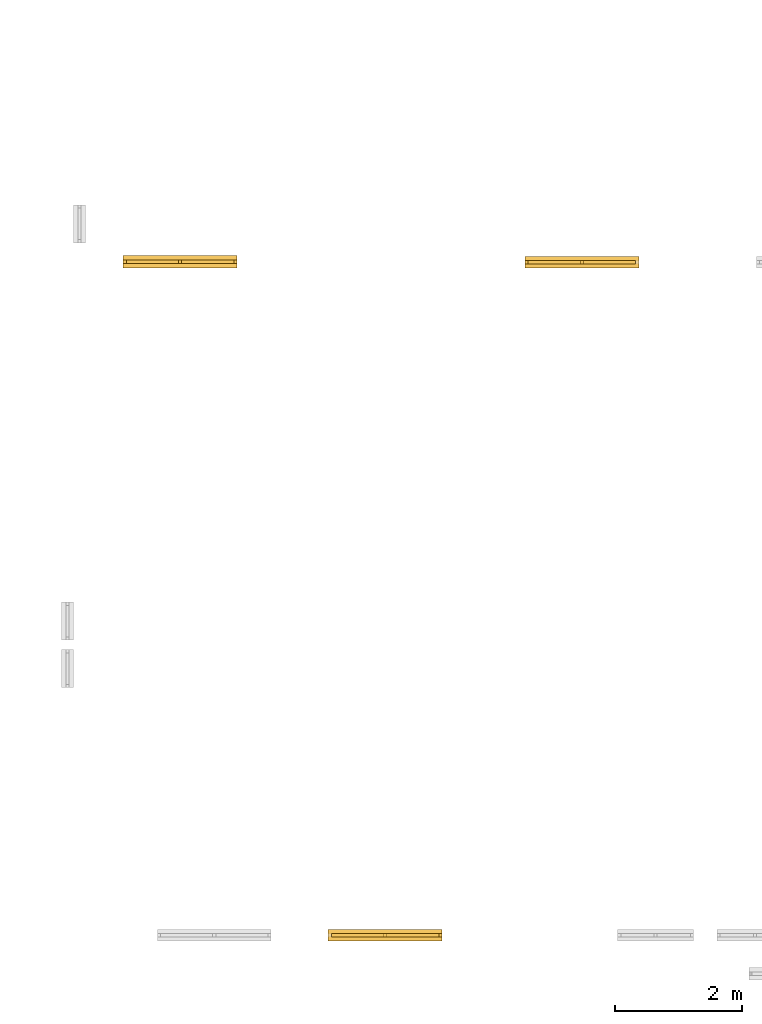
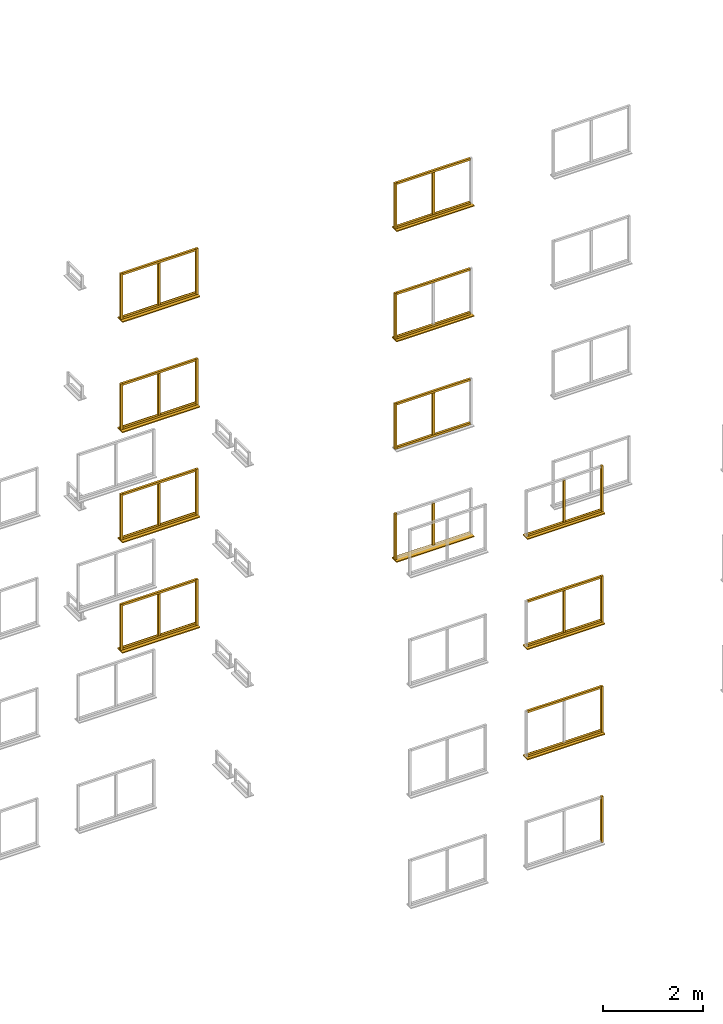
# Not in any storey, part 13 of 22: 54 windows.
"""IFC2X3 model written with IfcOpenShell, lengths in metres."""

from ifc_helpers import new_model, si_unit, frame, origin, place, context, project, faceted_brep, element, save


model = new_model("IFC2X3")

# Units and contexts
model_context = context("Model", 3, precision=1e-06, world=origin())
ifc_project = project(units=[si_unit("LENGTHUNIT", "METRE"), si_unit("PLANEANGLEUNIT", "RADIAN")], contexts=[model_context])

# Windows
placement = place(None, origin())
for number, where, z_axis, x_axis, name in (
    (1, (45.47499999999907, -5.698422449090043, 3.725000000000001), (0.0, 0.0, 1.0), (1.0, 0.0, 0.0), "rightFrame"),
    (2, (46.884598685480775, 4.988577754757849, 1.025), (0.0, 0.0, 1.0), (-1.0, 0.0, 0.0), "rightFrame"),
):
    element("IfcWindow", number, at=place(placement, frame(where, z_axis=z_axis, x_axis=x_axis)), Name=name, context=model_context, shape_type="Brep", body=[
        faceted_brep([(0.0, 0.05, 0.0), (0.05, 0.05, 0.0), (0.05, 0.0, 0.0), (0.0, 0.0, 0.0), (0.05, 0.0, 1.125), (0.05, 0.05, 1.125), (0.0, 0.05, 1.125), (0.0, 0.0, 1.125), (0.0, 0.05, 0.0), (0.0, 0.0, 0.0), (0.0, 0.0, 1.125), (0.0, 0.05, 1.125), (0.05, 0.05, 0.0), (0.0, 0.05, 0.0), (0.0, 0.05, 1.125), (0.05, 0.05, 1.125), (0.05, 0.0, 0.0), (0.05, 0.05, 0.0), (0.05, 0.05, 1.125), (0.05, 0.0, 1.125), (0.0, 0.0, 0.0), (0.05, 0.0, 0.0), (0.05, 0.0, 1.125), (0.0, 0.0, 1.125)], [[[0, 1, 2, 3]], [[4, 5, 6, 7]], [[8, 9, 10, 11]], [[12, 13, 14, 15]], [[16, 17, 18, 19]], [[20, 21, 22, 23]]]),
    ])
window_1_placement = place(placement, frame((48.634598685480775, 5.057077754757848, 1.0), z_axis=(0.0, 0.0, 1.0), x_axis=(-1.0, 0.0, 0.0)))
element("IfcWindow", 3, at=window_1_placement, Name="windowSill", context=model_context, shape_type="Brep", body=[
    faceted_brep([(0.0, 0.186999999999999, 0.0), (1.8, 0.186999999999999, 0.0), (1.8, 0.0, 0.0), (0.0, 0.0, 0.0), (1.8, 0.0, 0.025), (1.8, 0.186999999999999, 0.025), (0.0, 0.186999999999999, 0.025), (0.0, 0.0, 0.025), (0.0, 0.186999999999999, 0.0), (0.0, 0.0, 0.0), (0.0, 0.0, 0.025), (0.0, 0.186999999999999, 0.025), (1.8, 0.186999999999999, 0.0), (0.0, 0.186999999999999, 0.0), (0.0, 0.186999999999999, 0.025), (1.8, 0.186999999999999, 0.025), (1.8, 0.0, 0.0), (1.8, 0.186999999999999, 0.0), (1.8, 0.186999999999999, 0.025), (1.8, 0.0, 0.025), (0.0, 0.0, 0.0), (1.8, 0.0, 0.0), (1.8, 0.0, 0.025), (0.0, 0.0, 0.025)], [[[0, 1, 2, 3]], [[4, 5, 6, 7]], [[8, 9, 10, 11]], [[12, 13, 14, 15]], [[16, 17, 18, 19]], [[20, 21, 22, 23]]]),
])
for number, where, z_axis, x_axis, name in (
    (4, (47.759598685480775, 4.988577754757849, 1.075), (0.0, 0.0, 1.0), (-1.0, 0.0, 0.0), "verticalBar"),
    (5, (47.759598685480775, 4.988577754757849, 3.775), (0.0, 0.0, 1.0), (-1.0, 0.0, 0.0), "verticalBar"),
):
    element("IfcWindow", number, at=place(placement, frame(where, z_axis=z_axis, x_axis=x_axis)), Name=name, context=model_context, shape_type="Brep", body=[
        faceted_brep([(0.0, 0.05, 0.0), (0.05, 0.05, 0.0), (0.05, 0.0, 0.0), (0.0, 0.0, 0.0), (0.05, 0.0, 1.025), (0.05, 0.05, 1.025), (0.0, 0.05, 1.025), (0.0, 0.0, 1.025), (0.0, 0.05, 0.0), (0.0, 0.0, 0.0), (0.0, 0.0, 1.025), (0.0, 0.05, 1.025), (0.05, 0.05, 0.0), (0.0, 0.05, 0.0), (0.0, 0.05, 1.025), (0.05, 0.05, 1.025), (0.05, 0.0, 0.0), (0.05, 0.05, 0.0), (0.05, 0.05, 1.025), (0.05, 0.0, 1.025), (0.0, 0.0, 0.0), (0.05, 0.0, 0.0), (0.05, 0.0, 1.025), (0.0, 0.0, 1.025)], [[[0, 1, 2, 3]], [[4, 5, 6, 7]], [[8, 9, 10, 11]], [[12, 13, 14, 15]], [[16, 17, 18, 19]], [[20, 21, 22, 23]]]),
    ])
window_2_placement = place(placement, frame((48.58459868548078, 4.988577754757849, 4.8), z_axis=(0.0, 0.0, 1.0), x_axis=(-1.0, 0.0, 0.0)))
element("IfcWindow", 6, at=window_2_placement, Name="topFrame", context=model_context, shape_type="Brep", body=[
    faceted_brep([(0.0, 0.05, 0.0), (1.7, 0.05, 0.0), (1.7, 0.0, 0.0), (0.0, 0.0, 0.0), (1.7, 0.0, 0.05), (1.7, 0.05, 0.05), (0.0, 0.05, 0.05), (0.0, 0.0, 0.05), (0.0, 0.05, 0.0), (0.0, 0.0, 0.0), (0.0, 0.0, 0.05), (0.0, 0.05, 0.05), (1.7, 0.05, 0.0), (0.0, 0.05, 0.0), (0.0, 0.05, 0.05), (1.7, 0.05, 0.05), (1.7, 0.0, 0.0), (1.7, 0.05, 0.0), (1.7, 0.05, 0.05), (1.7, 0.0, 0.05), (0.0, 0.0, 0.0), (1.7, 0.0, 0.0), (1.7, 0.0, 0.05), (0.0, 0.0, 0.05)], [[[0, 1, 2, 3]], [[4, 5, 6, 7]], [[8, 9, 10, 11]], [[12, 13, 14, 15]], [[16, 17, 18, 19]], [[20, 21, 22, 23]]]),
])
window_3_placement = place(placement, frame((46.884598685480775, 4.988577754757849, 3.725), z_axis=(0.0, 0.0, 1.0), x_axis=(-1.0, 0.0, 0.0)))
element("IfcWindow", 7, at=window_3_placement, Name="rightFrame", context=model_context, shape_type="Brep", body=[
    faceted_brep([(0.0, 0.05, 0.0), (0.05, 0.05, 0.0), (0.05, 0.0, 0.0), (0.0, 0.0, 0.0), (0.05, 0.0, 1.125), (0.05, 0.05, 1.125), (0.0, 0.05, 1.125), (0.0, 0.0, 1.125), (0.0, 0.05, 0.0), (0.0, 0.0, 0.0), (0.0, 0.0, 1.125), (0.0, 0.05, 1.125), (0.05, 0.05, 0.0), (0.0, 0.05, 0.0), (0.0, 0.05, 1.125), (0.05, 0.05, 1.125), (0.05, 0.0, 0.0), (0.05, 0.05, 0.0), (0.05, 0.05, 1.125), (0.05, 0.0, 1.125), (0.0, 0.0, 0.0), (0.05, 0.0, 0.0), (0.05, 0.0, 1.125), (0.0, 0.0, 1.125)], [[[0, 1, 2, 3]], [[4, 5, 6, 7]], [[8, 9, 10, 11]], [[12, 13, 14, 15]], [[16, 17, 18, 19]], [[20, 21, 22, 23]]]),
])
for number, where, z_axis, x_axis, name in (
    (8, (48.58459868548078, 4.988577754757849, 3.725), (0.0, 0.0, 1.0), (-1.0, 0.0, 0.0), "bottomFrame"),
    (9, (48.58459868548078, 4.98857775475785, 6.425000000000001), (0.0, 0.0, 1.0), (-1.0, 0.0, 0.0), "bottomFrame"),
):
    element("IfcWindow", number, at=place(placement, frame(where, z_axis=z_axis, x_axis=x_axis)), Name=name, context=model_context, shape_type="Brep", body=[
        faceted_brep([(0.0, 0.05, 0.0), (1.7, 0.05, 0.0), (1.7, 0.0, 0.0), (0.0, 0.0, 0.0), (1.7, 0.0, 0.05), (1.7, 0.05, 0.05), (0.0, 0.05, 0.05), (0.0, 0.0, 0.05), (0.0, 0.05, 0.0), (0.0, 0.0, 0.0), (0.0, 0.0, 0.05), (0.0, 0.05, 0.05), (1.7, 0.05, 0.0), (0.0, 0.05, 0.0), (0.0, 0.05, 0.05), (1.7, 0.05, 0.05), (1.7, 0.0, 0.0), (1.7, 0.05, 0.0), (1.7, 0.05, 0.05), (1.7, 0.0, 0.05), (0.0, 0.0, 0.0), (1.7, 0.0, 0.0), (1.7, 0.0, 0.05), (0.0, 0.0, 0.05)], [[[0, 1, 2, 3]], [[4, 5, 6, 7]], [[8, 9, 10, 11]], [[12, 13, 14, 15]], [[16, 17, 18, 19]], [[20, 21, 22, 23]]]),
    ])
window_4_placement = place(placement, frame((46.884598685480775, 4.98857775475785, 6.425000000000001), z_axis=(0.0, 0.0, 1.0), x_axis=(-1.0, 0.0, 0.0)))
element("IfcWindow", 10, at=window_4_placement, Name="rightFrame", context=model_context, shape_type="Brep", body=[
    faceted_brep([(0.0, 0.05, 0.0), (0.05, 0.05, 0.0), (0.05, 0.0, 0.0), (0.0, 0.0, 0.0), (0.05, 0.0, 1.125), (0.05, 0.05, 1.125), (0.0, 0.05, 1.125), (0.0, 0.0, 1.125), (0.0, 0.05, 0.0), (0.0, 0.0, 0.0), (0.0, 0.0, 1.125), (0.0, 0.05, 1.125), (0.05, 0.05, 0.0), (0.0, 0.05, 0.0), (0.0, 0.05, 1.125), (0.05, 0.05, 1.125), (0.05, 0.0, 0.0), (0.05, 0.05, 0.0), (0.05, 0.05, 1.125), (0.05, 0.0, 1.125), (0.0, 0.0, 0.0), (0.05, 0.0, 0.0), (0.05, 0.0, 1.125), (0.0, 0.0, 1.125)], [[[0, 1, 2, 3]], [[4, 5, 6, 7]], [[8, 9, 10, 11]], [[12, 13, 14, 15]], [[16, 17, 18, 19]], [[20, 21, 22, 23]]]),
])
window_5_placement = place(placement, frame((48.58459868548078, 4.98857775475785, 7.5), z_axis=(0.0, 0.0, 1.0), x_axis=(-1.0, 0.0, 0.0)))
element("IfcWindow", 11, at=window_5_placement, Name="topFrame", context=model_context, shape_type="Brep", body=[
    faceted_brep([(0.0, 0.05, 0.0), (1.7, 0.05, 0.0), (1.7, 0.0, 0.0), (0.0, 0.0, 0.0), (1.7, 0.0, 0.05), (1.7, 0.05, 0.05), (0.0, 0.05, 0.05), (0.0, 0.0, 0.05), (0.0, 0.05, 0.0), (0.0, 0.0, 0.0), (0.0, 0.0, 0.05), (0.0, 0.05, 0.05), (1.7, 0.05, 0.0), (0.0, 0.05, 0.0), (0.0, 0.05, 0.05), (1.7, 0.05, 0.05), (1.7, 0.0, 0.0), (1.7, 0.05, 0.0), (1.7, 0.05, 0.05), (1.7, 0.0, 0.05), (0.0, 0.0, 0.0), (1.7, 0.0, 0.0), (1.7, 0.0, 0.05), (0.0, 0.0, 0.05)], [[[0, 1, 2, 3]], [[4, 5, 6, 7]], [[8, 9, 10, 11]], [[12, 13, 14, 15]], [[16, 17, 18, 19]], [[20, 21, 22, 23]]]),
])
window_6_placement = place(placement, frame((48.634598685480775, 5.05707775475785, 6.4), z_axis=(0.0, 0.0, 1.0), x_axis=(-1.0, 0.0, 0.0)))
element("IfcWindow", 12, at=window_6_placement, Name="windowSill", context=model_context, shape_type="Brep", body=[
    faceted_brep([(0.0, 0.186999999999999, 0.0), (1.8, 0.186999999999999, 0.0), (1.8, 0.0, 0.0), (0.0, 0.0, 0.0), (1.8, 0.0, 0.025), (1.8, 0.186999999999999, 0.025), (0.0, 0.186999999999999, 0.025), (0.0, 0.0, 0.025), (0.0, 0.186999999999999, 0.0), (0.0, 0.0, 0.0), (0.0, 0.0, 0.025), (0.0, 0.186999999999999, 0.025), (1.8, 0.186999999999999, 0.0), (0.0, 0.186999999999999, 0.0), (0.0, 0.186999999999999, 0.025), (1.8, 0.186999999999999, 0.025), (1.8, 0.0, 0.0), (1.8, 0.186999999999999, 0.0), (1.8, 0.186999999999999, 0.025), (1.8, 0.0, 0.025), (0.0, 0.0, 0.0), (1.8, 0.0, 0.0), (1.8, 0.0, 0.025), (0.0, 0.0, 0.025)], [[[0, 1, 2, 3]], [[4, 5, 6, 7]], [[8, 9, 10, 11]], [[12, 13, 14, 15]], [[16, 17, 18, 19]], [[20, 21, 22, 23]]]),
])
window_7_placement = place(placement, frame((47.759598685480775, 4.988577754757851, 9.175), z_axis=(0.0, 0.0, 1.0), x_axis=(-1.0, 0.0, 0.0)))
element("IfcWindow", 13, at=window_7_placement, Name="verticalBar", context=model_context, shape_type="Brep", body=[
    faceted_brep([(0.0, 0.05, 0.0), (0.05, 0.05, 0.0), (0.05, 0.0, 0.0), (0.0, 0.0, 0.0), (0.05, 0.0, 1.025), (0.05, 0.05, 1.025), (0.0, 0.05, 1.025), (0.0, 0.0, 1.025), (0.0, 0.05, 0.0), (0.0, 0.0, 0.0), (0.0, 0.0, 1.025), (0.0, 0.05, 1.025), (0.05, 0.05, 0.0), (0.0, 0.05, 0.0), (0.0, 0.05, 1.025), (0.05, 0.05, 1.025), (0.05, 0.0, 0.0), (0.05, 0.05, 0.0), (0.05, 0.05, 1.025), (0.05, 0.0, 1.025), (0.0, 0.0, 0.0), (0.05, 0.0, 0.0), (0.05, 0.0, 1.025), (0.0, 0.0, 1.025)], [[[0, 1, 2, 3]], [[4, 5, 6, 7]], [[8, 9, 10, 11]], [[12, 13, 14, 15]], [[16, 17, 18, 19]], [[20, 21, 22, 23]]]),
])
window_8_placement = place(placement, frame((48.634598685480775, 5.057077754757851, 9.100000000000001), z_axis=(0.0, 0.0, 1.0), x_axis=(-1.0, 0.0, 0.0)))
element("IfcWindow", 14, at=window_8_placement, Name="windowSill", context=model_context, shape_type="Brep", body=[
    faceted_brep([(0.0, 0.186999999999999, 0.0), (1.8, 0.186999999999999, 0.0), (1.8, 0.0, 0.0), (0.0, 0.0, 0.0), (1.8, 0.0, 0.025), (1.8, 0.186999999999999, 0.025), (0.0, 0.186999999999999, 0.025), (0.0, 0.0, 0.025), (0.0, 0.186999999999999, 0.0), (0.0, 0.0, 0.0), (0.0, 0.0, 0.025), (0.0, 0.186999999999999, 0.025), (1.8, 0.186999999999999, 0.0), (0.0, 0.186999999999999, 0.0), (0.0, 0.186999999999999, 0.025), (1.8, 0.186999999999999, 0.025), (1.8, 0.0, 0.0), (1.8, 0.186999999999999, 0.0), (1.8, 0.186999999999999, 0.025), (1.8, 0.0, 0.025), (0.0, 0.0, 0.0), (1.8, 0.0, 0.0), (1.8, 0.0, 0.025), (0.0, 0.0, 0.025)], [[[0, 1, 2, 3]], [[4, 5, 6, 7]], [[8, 9, 10, 11]], [[12, 13, 14, 15]], [[16, 17, 18, 19]], [[20, 21, 22, 23]]]),
])
for number, where, z_axis, x_axis, name in (
    (15, (48.58459868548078, 4.988577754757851, 10.200000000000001), (0.0, 0.0, 1.0), (-1.0, 0.0, 0.0), "topFrame"),
    (16, (48.58459868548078, 4.988577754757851, 9.125000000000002), (0.0, 0.0, 1.0), (-1.0, 0.0, 0.0), "bottomFrame"),
    (17, (42.23500000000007, 4.995077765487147, 2.099999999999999), (0.0, 0.0, 1.0), (-1.0, 0.0, 0.0), "topFrame"),
):
    element("IfcWindow", number, at=place(placement, frame(where, z_axis=z_axis, x_axis=x_axis)), Name=name, context=model_context, shape_type="Brep", body=[
        faceted_brep([(0.0, 0.05, 0.0), (1.7, 0.05, 0.0), (1.7, 0.0, 0.0), (0.0, 0.0, 0.0), (1.7, 0.0, 0.05), (1.7, 0.05, 0.05), (0.0, 0.05, 0.05), (0.0, 0.0, 0.05), (0.0, 0.05, 0.0), (0.0, 0.0, 0.0), (0.0, 0.0, 0.05), (0.0, 0.05, 0.05), (1.7, 0.05, 0.0), (0.0, 0.05, 0.0), (0.0, 0.05, 0.05), (1.7, 0.05, 0.05), (1.7, 0.0, 0.0), (1.7, 0.05, 0.0), (1.7, 0.05, 0.05), (1.7, 0.0, 0.05), (0.0, 0.0, 0.0), (1.7, 0.0, 0.0), (1.7, 0.0, 0.05), (0.0, 0.0, 0.05)], [[[0, 1, 2, 3]], [[4, 5, 6, 7]], [[8, 9, 10, 11]], [[12, 13, 14, 15]], [[16, 17, 18, 19]], [[20, 21, 22, 23]]]),
    ])
window_9_placement = place(placement, frame((40.53500000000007, 4.995077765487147, 1.024999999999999), z_axis=(0.0, 0.0, 1.0), x_axis=(-1.0, 0.0, 0.0)))
element("IfcWindow", 18, at=window_9_placement, Name="rightFrame", context=model_context, shape_type="Brep", body=[
    faceted_brep([(0.0, 0.05, 0.0), (0.05, 0.05, 0.0), (0.05, 0.0, 0.0), (0.0, 0.0, 0.0), (0.05, 0.0, 1.125), (0.05, 0.05, 1.125), (0.0, 0.05, 1.125), (0.0, 0.0, 1.125), (0.0, 0.05, 0.0), (0.0, 0.0, 0.0), (0.0, 0.0, 1.125), (0.0, 0.05, 1.125), (0.05, 0.05, 0.0), (0.0, 0.05, 0.0), (0.0, 0.05, 1.125), (0.05, 0.05, 1.125), (0.05, 0.0, 0.0), (0.05, 0.05, 0.0), (0.05, 0.05, 1.125), (0.05, 0.0, 1.125), (0.0, 0.0, 0.0), (0.05, 0.0, 0.0), (0.05, 0.0, 1.125), (0.0, 0.0, 1.125)], [[[0, 1, 2, 3]], [[4, 5, 6, 7]], [[8, 9, 10, 11]], [[12, 13, 14, 15]], [[16, 17, 18, 19]], [[20, 21, 22, 23]]]),
])
window_10_placement = place(placement, frame((42.28500000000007, 5.070077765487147, 0.999999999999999), z_axis=(0.0, 0.0, 1.0), x_axis=(-1.0, 0.0, 0.0)))
element("IfcWindow", 19, at=window_10_placement, Name="windowSill", context=model_context, shape_type="Brep", body=[
    faceted_brep([(0.0, 0.2, 0.0), (1.8, 0.2, 0.0), (1.8, 0.0, 0.0), (0.0, 0.0, 0.0), (1.8, 0.0, 0.025), (1.8, 0.2, 0.025), (0.0, 0.2, 0.025), (0.0, 0.0, 0.025), (0.0, 0.2, 0.0), (0.0, 0.0, 0.0), (0.0, 0.0, 0.025), (0.0, 0.2, 0.025), (1.8, 0.2, 0.0), (0.0, 0.2, 0.0), (0.0, 0.2, 0.025), (1.8, 0.2, 0.025), (1.8, 0.0, 0.0), (1.8, 0.2, 0.0), (1.8, 0.2, 0.025), (1.8, 0.0, 0.025), (0.0, 0.0, 0.0), (1.8, 0.0, 0.0), (1.8, 0.0, 0.025), (0.0, 0.0, 0.025)], [[[0, 1, 2, 3]], [[4, 5, 6, 7]], [[8, 9, 10, 11]], [[12, 13, 14, 15]], [[16, 17, 18, 19]], [[20, 21, 22, 23]]]),
])
for number, where, z_axis, x_axis, name in (
    (20, (41.41000000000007, 4.995077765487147, 1.074999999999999), (0.0, 0.0, 1.0), (-1.0, 0.0, 0.0), "verticalBar"),
    (21, (41.41000000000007, 4.995077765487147, 3.775), (0.0, 0.0, 1.0), (-1.0, 0.0, 0.0), "verticalBar"),
):
    element("IfcWindow", number, at=place(placement, frame(where, z_axis=z_axis, x_axis=x_axis)), Name=name, context=model_context, shape_type="Brep", body=[
        faceted_brep([(0.0, 0.05, 0.0), (0.05, 0.05, 0.0), (0.05, 0.0, 0.0), (0.0, 0.0, 0.0), (0.05, 0.0, 1.025), (0.05, 0.05, 1.025), (0.0, 0.05, 1.025), (0.0, 0.0, 1.025), (0.0, 0.05, 0.0), (0.0, 0.0, 0.0), (0.0, 0.0, 1.025), (0.0, 0.05, 1.025), (0.05, 0.05, 0.0), (0.0, 0.05, 0.0), (0.0, 0.05, 1.025), (0.05, 0.05, 1.025), (0.05, 0.0, 0.0), (0.05, 0.05, 0.0), (0.05, 0.05, 1.025), (0.05, 0.0, 1.025), (0.0, 0.0, 0.0), (0.05, 0.0, 0.0), (0.05, 0.0, 1.025), (0.0, 0.0, 1.025)], [[[0, 1, 2, 3]], [[4, 5, 6, 7]], [[8, 9, 10, 11]], [[12, 13, 14, 15]], [[16, 17, 18, 19]], [[20, 21, 22, 23]]]),
    ])
window_11_placement = place(placement, frame((45.47499999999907, -5.698422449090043, 1.025), z_axis=(0.0, 0.0, 1.0), x_axis=(1.0, 0.0, 0.0)))
element("IfcWindow", 22, at=window_11_placement, Name="rightFrame", context=model_context, shape_type="Brep", body=[
    faceted_brep([(0.0, 0.05, 0.0), (0.05, 0.05, 0.0), (0.05, 0.0, 0.0), (0.0, 0.0, 0.0), (0.05, 0.0, 1.125), (0.05, 0.05, 1.125), (0.0, 0.05, 1.125), (0.0, 0.0, 1.125), (0.0, 0.05, 0.0), (0.0, 0.0, 0.0), (0.0, 0.0, 1.125), (0.0, 0.05, 1.125), (0.05, 0.05, 0.0), (0.0, 0.05, 0.0), (0.0, 0.05, 1.125), (0.05, 0.05, 1.125), (0.05, 0.0, 0.0), (0.05, 0.05, 0.0), (0.05, 0.05, 1.125), (0.05, 0.0, 1.125), (0.0, 0.0, 0.0), (0.05, 0.0, 0.0), (0.05, 0.0, 1.125), (0.0, 0.0, 1.125)], [[[0, 1, 2, 3]], [[4, 5, 6, 7]], [[8, 9, 10, 11]], [[12, 13, 14, 15]], [[16, 17, 18, 19]], [[20, 21, 22, 23]]]),
])
window_12_placement = place(placement, frame((42.28500000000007, 5.070077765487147, 3.699999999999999), z_axis=(0.0, 0.0, 1.0), x_axis=(-1.0, 0.0, 0.0)))
element("IfcWindow", 23, at=window_12_placement, Name="windowSill", context=model_context, shape_type="Brep", body=[
    faceted_brep([(0.0, 0.2, 0.0), (1.8, 0.2, 0.0), (1.8, 0.0, 0.0), (0.0, 0.0, 0.0), (1.8, 0.0, 0.025), (1.8, 0.2, 0.025), (0.0, 0.2, 0.025), (0.0, 0.0, 0.025), (0.0, 0.2, 0.0), (0.0, 0.0, 0.0), (0.0, 0.0, 0.025), (0.0, 0.2, 0.025), (1.8, 0.2, 0.0), (0.0, 0.2, 0.0), (0.0, 0.2, 0.025), (1.8, 0.2, 0.025), (1.8, 0.0, 0.0), (1.8, 0.2, 0.0), (1.8, 0.2, 0.025), (1.8, 0.0, 0.025), (0.0, 0.0, 0.0), (1.8, 0.0, 0.0), (1.8, 0.0, 0.025), (0.0, 0.0, 0.025)], [[[0, 1, 2, 3]], [[4, 5, 6, 7]], [[8, 9, 10, 11]], [[12, 13, 14, 15]], [[16, 17, 18, 19]], [[20, 21, 22, 23]]]),
])
for number, where, z_axis, x_axis, name in (
    (24, (40.53500000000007, 4.995077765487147, 3.724999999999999), (0.0, 0.0, 1.0), (-1.0, 0.0, 0.0), "rightFrame"),
    (25, (42.28500000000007, 4.995077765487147, 3.724999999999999), (0.0, 0.0, 1.0), (-1.0, 0.0, 0.0), "leftFrame"),
):
    element("IfcWindow", number, at=place(placement, frame(where, z_axis=z_axis, x_axis=x_axis)), Name=name, context=model_context, shape_type="Brep", body=[
        faceted_brep([(0.0, 0.05, 0.0), (0.05, 0.05, 0.0), (0.05, 0.0, 0.0), (0.0, 0.0, 0.0), (0.05, 0.0, 1.125), (0.05, 0.05, 1.125), (0.0, 0.05, 1.125), (0.0, 0.0, 1.125), (0.0, 0.05, 0.0), (0.0, 0.0, 0.0), (0.0, 0.0, 1.125), (0.0, 0.05, 1.125), (0.05, 0.05, 0.0), (0.0, 0.05, 0.0), (0.0, 0.05, 1.125), (0.05, 0.05, 1.125), (0.05, 0.0, 0.0), (0.05, 0.05, 0.0), (0.05, 0.05, 1.125), (0.05, 0.0, 1.125), (0.0, 0.0, 0.0), (0.05, 0.0, 0.0), (0.05, 0.0, 1.125), (0.0, 0.0, 1.125)], [[[0, 1, 2, 3]], [[4, 5, 6, 7]], [[8, 9, 10, 11]], [[12, 13, 14, 15]], [[16, 17, 18, 19]], [[20, 21, 22, 23]]]),
    ])
for number, where, z_axis, x_axis, name in (
    (26, (42.23500000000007, 4.995077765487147, 4.799999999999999), (0.0, 0.0, 1.0), (-1.0, 0.0, 0.0), "topFrame"),
    (27, (42.23500000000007, 4.995077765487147, 3.724999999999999), (0.0, 0.0, 1.0), (-1.0, 0.0, 0.0), "bottomFrame"),
    (28, (42.23500000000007, 4.995077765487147, 6.424999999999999), (0.0, 0.0, 1.0), (-1.0, 0.0, 0.0), "bottomFrame"),
    (29, (42.23500000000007, 4.995077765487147, 7.499999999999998), (0.0, 0.0, 1.0), (-1.0, 0.0, 0.0), "topFrame"),
):
    element("IfcWindow", number, at=place(placement, frame(where, z_axis=z_axis, x_axis=x_axis)), Name=name, context=model_context, shape_type="Brep", body=[
        faceted_brep([(0.0, 0.05, 0.0), (1.7, 0.05, 0.0), (1.7, 0.0, 0.0), (0.0, 0.0, 0.0), (1.7, 0.0, 0.05), (1.7, 0.05, 0.05), (0.0, 0.05, 0.05), (0.0, 0.0, 0.05), (0.0, 0.05, 0.0), (0.0, 0.0, 0.0), (0.0, 0.0, 0.05), (0.0, 0.05, 0.05), (1.7, 0.05, 0.0), (0.0, 0.05, 0.0), (0.0, 0.05, 0.05), (1.7, 0.05, 0.05), (1.7, 0.0, 0.0), (1.7, 0.05, 0.0), (1.7, 0.05, 0.05), (1.7, 0.0, 0.05), (0.0, 0.0, 0.0), (1.7, 0.0, 0.0), (1.7, 0.0, 0.05), (0.0, 0.0, 0.05)], [[[0, 1, 2, 3]], [[4, 5, 6, 7]], [[8, 9, 10, 11]], [[12, 13, 14, 15]], [[16, 17, 18, 19]], [[20, 21, 22, 23]]]),
    ])
for number, where, z_axis, x_axis, name in (
    (30, (42.28500000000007, 4.995077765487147, 6.424999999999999), (0.0, 0.0, 1.0), (-1.0, 0.0, 0.0), "leftFrame"),
    (31, (40.53500000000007, 4.995077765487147, 6.424999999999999), (0.0, 0.0, 1.0), (-1.0, 0.0, 0.0), "rightFrame"),
):
    element("IfcWindow", number, at=place(placement, frame(where, z_axis=z_axis, x_axis=x_axis)), Name=name, context=model_context, shape_type="Brep", body=[
        faceted_brep([(0.0, 0.05, 0.0), (0.05, 0.05, 0.0), (0.05, 0.0, 0.0), (0.0, 0.0, 0.0), (0.05, 0.0, 1.125), (0.05, 0.05, 1.125), (0.0, 0.05, 1.125), (0.0, 0.0, 1.125), (0.0, 0.05, 0.0), (0.0, 0.0, 0.0), (0.0, 0.0, 1.125), (0.0, 0.05, 1.125), (0.05, 0.05, 0.0), (0.0, 0.05, 0.0), (0.0, 0.05, 1.125), (0.05, 0.05, 1.125), (0.05, 0.0, 0.0), (0.05, 0.05, 0.0), (0.05, 0.05, 1.125), (0.05, 0.0, 1.125), (0.0, 0.0, 0.0), (0.05, 0.0, 0.0), (0.05, 0.0, 1.125), (0.0, 0.0, 1.125)], [[[0, 1, 2, 3]], [[4, 5, 6, 7]], [[8, 9, 10, 11]], [[12, 13, 14, 15]], [[16, 17, 18, 19]], [[20, 21, 22, 23]]]),
    ])
window_13_placement = place(placement, frame((41.41000000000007, 4.995077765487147, 6.474999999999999), z_axis=(0.0, 0.0, 1.0), x_axis=(-1.0, 0.0, 0.0)))
element("IfcWindow", 32, at=window_13_placement, Name="verticalBar", context=model_context, shape_type="Brep", body=[
    faceted_brep([(0.0, 0.05, 0.0), (0.05, 0.05, 0.0), (0.05, 0.0, 0.0), (0.0, 0.0, 0.0), (0.05, 0.0, 1.025), (0.05, 0.05, 1.025), (0.0, 0.05, 1.025), (0.0, 0.0, 1.025), (0.0, 0.05, 0.0), (0.0, 0.0, 0.0), (0.0, 0.0, 1.025), (0.0, 0.05, 1.025), (0.05, 0.05, 0.0), (0.0, 0.05, 0.0), (0.0, 0.05, 1.025), (0.05, 0.05, 1.025), (0.05, 0.0, 0.0), (0.05, 0.05, 0.0), (0.05, 0.05, 1.025), (0.05, 0.0, 1.025), (0.0, 0.0, 0.0), (0.05, 0.0, 0.0), (0.05, 0.0, 1.025), (0.0, 0.0, 1.025)], [[[0, 1, 2, 3]], [[4, 5, 6, 7]], [[8, 9, 10, 11]], [[12, 13, 14, 15]], [[16, 17, 18, 19]], [[20, 21, 22, 23]]]),
])
for number, where, z_axis, x_axis, name in (
    (33, (42.28500000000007, 5.070077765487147, 6.399999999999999), (0.0, 0.0, 1.0), (-1.0, 0.0, 0.0), "windowSill"),
    (34, (42.28500000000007, 5.070077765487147, 9.099999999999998), (0.0, 0.0, 1.0), (-1.0, 0.0, 0.0), "windowSill"),
):
    element("IfcWindow", number, at=place(placement, frame(where, z_axis=z_axis, x_axis=x_axis)), Name=name, context=model_context, shape_type="Brep", body=[
        faceted_brep([(0.0, 0.2, 0.0), (1.8, 0.2, 0.0), (1.8, 0.0, 0.0), (0.0, 0.0, 0.0), (1.8, 0.0, 0.025), (1.8, 0.2, 0.025), (0.0, 0.2, 0.025), (0.0, 0.0, 0.025), (0.0, 0.2, 0.0), (0.0, 0.0, 0.0), (0.0, 0.0, 0.025), (0.0, 0.2, 0.025), (1.8, 0.2, 0.0), (0.0, 0.2, 0.0), (0.0, 0.2, 0.025), (1.8, 0.2, 0.025), (1.8, 0.0, 0.0), (1.8, 0.2, 0.0), (1.8, 0.2, 0.025), (1.8, 0.0, 0.025), (0.0, 0.0, 0.0), (1.8, 0.0, 0.0), (1.8, 0.0, 0.025), (0.0, 0.0, 0.025)], [[[0, 1, 2, 3]], [[4, 5, 6, 7]], [[8, 9, 10, 11]], [[12, 13, 14, 15]], [[16, 17, 18, 19]], [[20, 21, 22, 23]]]),
    ])
window_14_placement = place(placement, frame((41.41000000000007, 4.995077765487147, 9.174999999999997), z_axis=(0.0, 0.0, 1.0), x_axis=(-1.0, 0.0, 0.0)))
element("IfcWindow", 35, at=window_14_placement, Name="verticalBar", context=model_context, shape_type="Brep", body=[
    faceted_brep([(0.0, 0.05, 0.0), (0.05, 0.05, 0.0), (0.05, 0.0, 0.0), (0.0, 0.0, 0.0), (0.05, 0.0, 1.025), (0.05, 0.05, 1.025), (0.0, 0.05, 1.025), (0.0, 0.0, 1.025), (0.0, 0.05, 0.0), (0.0, 0.0, 0.0), (0.0, 0.0, 1.025), (0.0, 0.05, 1.025), (0.05, 0.05, 0.0), (0.0, 0.05, 0.0), (0.0, 0.05, 1.025), (0.05, 0.05, 1.025), (0.05, 0.0, 0.0), (0.05, 0.05, 0.0), (0.05, 0.05, 1.025), (0.05, 0.0, 1.025), (0.0, 0.0, 0.0), (0.05, 0.0, 0.0), (0.05, 0.0, 1.025), (0.0, 0.0, 1.025)], [[[0, 1, 2, 3]], [[4, 5, 6, 7]], [[8, 9, 10, 11]], [[12, 13, 14, 15]], [[16, 17, 18, 19]], [[20, 21, 22, 23]]]),
])
for number, where, z_axis, x_axis, name in (
    (36, (40.53500000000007, 4.995077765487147, 9.124999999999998), (0.0, 0.0, 1.0), (-1.0, 0.0, 0.0), "rightFrame"),
    (37, (42.28500000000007, 4.995077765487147, 9.124999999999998), (0.0, 0.0, 1.0), (-1.0, 0.0, 0.0), "leftFrame"),
):
    element("IfcWindow", number, at=place(placement, frame(where, z_axis=z_axis, x_axis=x_axis)), Name=name, context=model_context, shape_type="Brep", body=[
        faceted_brep([(0.0, 0.05, 0.0), (0.05, 0.05, 0.0), (0.05, 0.0, 0.0), (0.0, 0.0, 0.0), (0.05, 0.0, 1.125), (0.05, 0.05, 1.125), (0.0, 0.05, 1.125), (0.0, 0.0, 1.125), (0.0, 0.05, 0.0), (0.0, 0.0, 0.0), (0.0, 0.0, 1.125), (0.0, 0.05, 1.125), (0.05, 0.05, 0.0), (0.0, 0.05, 0.0), (0.0, 0.05, 1.125), (0.05, 0.05, 1.125), (0.05, 0.0, 0.0), (0.05, 0.05, 0.0), (0.05, 0.05, 1.125), (0.05, 0.0, 1.125), (0.0, 0.0, 0.0), (0.05, 0.0, 0.0), (0.05, 0.0, 1.125), (0.0, 0.0, 1.125)], [[[0, 1, 2, 3]], [[4, 5, 6, 7]], [[8, 9, 10, 11]], [[12, 13, 14, 15]], [[16, 17, 18, 19]], [[20, 21, 22, 23]]]),
    ])
for number, where, z_axis, x_axis, name in (
    (38, (42.23500000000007, 4.995077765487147, 10.199999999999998), (0.0, 0.0, 1.0), (-1.0, 0.0, 0.0), "topFrame"),
    (39, (42.23500000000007, 4.995077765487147, 9.124999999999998), (0.0, 0.0, 1.0), (-1.0, 0.0, 0.0), "bottomFrame"),
):
    element("IfcWindow", number, at=place(placement, frame(where, z_axis=z_axis, x_axis=x_axis)), Name=name, context=model_context, shape_type="Brep", body=[
        faceted_brep([(0.0, 0.05, 0.0), (1.7, 0.05, 0.0), (1.7, 0.0, 0.0), (0.0, 0.0, 0.0), (1.7, 0.0, 0.05), (1.7, 0.05, 0.05), (0.0, 0.05, 0.05), (0.0, 0.0, 0.05), (0.0, 0.05, 0.0), (0.0, 0.0, 0.0), (0.0, 0.0, 0.05), (0.0, 0.05, 0.05), (1.7, 0.05, 0.0), (0.0, 0.05, 0.0), (0.0, 0.05, 0.05), (1.7, 0.05, 0.05), (1.7, 0.0, 0.0), (1.7, 0.05, 0.0), (1.7, 0.05, 0.05), (1.7, 0.0, 0.05), (0.0, 0.0, 0.0), (1.7, 0.0, 0.0), (1.7, 0.0, 0.05), (0.0, 0.0, 0.05)], [[[0, 1, 2, 3]], [[4, 5, 6, 7]], [[8, 9, 10, 11]], [[12, 13, 14, 15]], [[16, 17, 18, 19]], [[20, 21, 22, 23]]]),
    ])
for number, where, z_axis, x_axis, name in (
    (40, (46.884598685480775, 4.988577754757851, 9.125000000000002), (0.0, 0.0, 1.0), (-1.0, 0.0, 0.0), "rightFrame"),
    (41, (45.47499999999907, -5.698422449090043, 9.125000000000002), (0.0, 0.0, 1.0), (1.0, 0.0, 0.0), "rightFrame"),
):
    element("IfcWindow", number, at=place(placement, frame(where, z_axis=z_axis, x_axis=x_axis)), Name=name, context=model_context, shape_type="Brep", body=[
        faceted_brep([(0.0, 0.05, 0.0), (0.05, 0.05, 0.0), (0.05, 0.0, 0.0), (0.0, 0.0, 0.0), (0.05, 0.0, 1.125), (0.05, 0.05, 1.125), (0.0, 0.05, 1.125), (0.0, 0.0, 1.125), (0.0, 0.05, 0.0), (0.0, 0.0, 0.0), (0.0, 0.0, 1.125), (0.0, 0.05, 1.125), (0.05, 0.05, 0.0), (0.0, 0.05, 0.0), (0.0, 0.05, 1.125), (0.05, 0.05, 1.125), (0.05, 0.0, 0.0), (0.05, 0.05, 0.0), (0.05, 0.05, 1.125), (0.05, 0.0, 1.125), (0.0, 0.0, 0.0), (0.05, 0.0, 0.0), (0.05, 0.0, 1.125), (0.0, 0.0, 1.125)], [[[0, 1, 2, 3]], [[4, 5, 6, 7]], [[8, 9, 10, 11]], [[12, 13, 14, 15]], [[16, 17, 18, 19]], [[20, 21, 22, 23]]]),
    ])
window_15_placement = place(placement, frame((43.72499999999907, -5.766922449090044, 9.100000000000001), z_axis=(0.0, 0.0, 1.0), x_axis=(1.0, 0.0, 0.0)))
element("IfcWindow", 42, at=window_15_placement, Name="windowSill", context=model_context, shape_type="Brep", body=[
    faceted_brep([(0.0, 0.187, 0.0), (1.8, 0.187, 0.0), (1.8, 0.0, 0.0), (0.0, 0.0, 0.0), (1.8, 0.0, 0.025), (1.8, 0.187, 0.025), (0.0, 0.187, 0.025), (0.0, 0.0, 0.025), (0.0, 0.187, 0.0), (0.0, 0.0, 0.0), (0.0, 0.0, 0.025), (0.0, 0.187, 0.025), (1.8, 0.187, 0.0), (0.0, 0.187, 0.0), (0.0, 0.187, 0.025), (1.8, 0.187, 0.025), (1.8, 0.0, 0.0), (1.8, 0.187, 0.0), (1.8, 0.187, 0.025), (1.8, 0.0, 0.025), (0.0, 0.0, 0.0), (1.8, 0.0, 0.0), (1.8, 0.0, 0.025), (0.0, 0.0, 0.025)], [[[0, 1, 2, 3]], [[4, 5, 6, 7]], [[8, 9, 10, 11]], [[12, 13, 14, 15]], [[16, 17, 18, 19]], [[20, 21, 22, 23]]]),
])
window_16_placement = place(placement, frame((44.59999999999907, -5.698422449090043, 9.175), z_axis=(0.0, 0.0, 1.0), x_axis=(1.0, 0.0, 0.0)))
element("IfcWindow", 43, at=window_16_placement, Name="verticalBar", context=model_context, shape_type="Brep", body=[
    faceted_brep([(0.0, 0.05, 0.0), (0.05, 0.05, 0.0), (0.05, 0.0, 0.0), (0.0, 0.0, 0.0), (0.05, 0.0, 1.025), (0.05, 0.05, 1.025), (0.0, 0.05, 1.025), (0.0, 0.0, 1.025), (0.0, 0.05, 0.0), (0.0, 0.0, 0.0), (0.0, 0.0, 1.025), (0.0, 0.05, 1.025), (0.05, 0.05, 0.0), (0.0, 0.05, 0.0), (0.0, 0.05, 1.025), (0.05, 0.05, 1.025), (0.05, 0.0, 0.0), (0.05, 0.05, 0.0), (0.05, 0.05, 1.025), (0.05, 0.0, 1.025), (0.0, 0.0, 0.0), (0.05, 0.0, 0.0), (0.05, 0.0, 1.025), (0.0, 0.0, 1.025)], [[[0, 1, 2, 3]], [[4, 5, 6, 7]], [[8, 9, 10, 11]], [[12, 13, 14, 15]], [[16, 17, 18, 19]], [[20, 21, 22, 23]]]),
])
for number, where, z_axis, x_axis, name in (
    (44, (42.23500000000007, 4.995077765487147, 1.024999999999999), (0.0, 0.0, 1.0), (-1.0, 0.0, 0.0), "bottomFrame"),
    (45, (43.77499999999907, -5.698422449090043, 9.125000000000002), (0.0, 0.0, 1.0), (1.0, 0.0, 0.0), "bottomFrame"),
    (46, (43.77499999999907, -5.698422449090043, 7.500000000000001), (0.0, 0.0, 1.0), (1.0, 0.0, 0.0), "topFrame"),
):
    element("IfcWindow", number, at=place(placement, frame(where, z_axis=z_axis, x_axis=x_axis)), Name=name, context=model_context, shape_type="Brep", body=[
        faceted_brep([(0.0, 0.05, 0.0), (1.7, 0.05, 0.0), (1.7, 0.0, 0.0), (0.0, 0.0, 0.0), (1.7, 0.0, 0.05), (1.7, 0.05, 0.05), (0.0, 0.05, 0.05), (0.0, 0.0, 0.05), (0.0, 0.05, 0.0), (0.0, 0.0, 0.0), (0.0, 0.0, 0.05), (0.0, 0.05, 0.05), (1.7, 0.05, 0.0), (0.0, 0.05, 0.0), (0.0, 0.05, 0.05), (1.7, 0.05, 0.05), (1.7, 0.0, 0.0), (1.7, 0.05, 0.0), (1.7, 0.05, 0.05), (1.7, 0.0, 0.05), (0.0, 0.0, 0.0), (1.7, 0.0, 0.0), (1.7, 0.0, 0.05), (0.0, 0.0, 0.05)], [[[0, 1, 2, 3]], [[4, 5, 6, 7]], [[8, 9, 10, 11]], [[12, 13, 14, 15]], [[16, 17, 18, 19]], [[20, 21, 22, 23]]]),
    ])
window_17_placement = place(placement, frame((43.72499999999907, -5.766922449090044, 6.400000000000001), z_axis=(0.0, 0.0, 1.0), x_axis=(1.0, 0.0, 0.0)))
element("IfcWindow", 47, at=window_17_placement, Name="windowSill", context=model_context, shape_type="Brep", body=[
    faceted_brep([(0.0, 0.187, 0.0), (1.8, 0.187, 0.0), (1.8, 0.0, 0.0), (0.0, 0.0, 0.0), (1.8, 0.0, 0.025), (1.8, 0.187, 0.025), (0.0, 0.187, 0.025), (0.0, 0.0, 0.025), (0.0, 0.187, 0.0), (0.0, 0.0, 0.0), (0.0, 0.0, 0.025), (0.0, 0.187, 0.025), (1.8, 0.187, 0.0), (0.0, 0.187, 0.0), (0.0, 0.187, 0.025), (1.8, 0.187, 0.025), (1.8, 0.0, 0.0), (1.8, 0.187, 0.0), (1.8, 0.187, 0.025), (1.8, 0.0, 0.025), (0.0, 0.0, 0.0), (1.8, 0.0, 0.0), (1.8, 0.0, 0.025), (0.0, 0.0, 0.025)], [[[0, 1, 2, 3]], [[4, 5, 6, 7]], [[8, 9, 10, 11]], [[12, 13, 14, 15]], [[16, 17, 18, 19]], [[20, 21, 22, 23]]]),
])
for number, where, z_axis, x_axis, name in (
    (48, (43.77499999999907, -5.698422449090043, 6.425000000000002), (0.0, 0.0, 1.0), (1.0, 0.0, 0.0), "bottomFrame"),
    (49, (43.77499999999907, -5.698422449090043, 4.800000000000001), (0.0, 0.0, 1.0), (1.0, 0.0, 0.0), "topFrame"),
):
    element("IfcWindow", number, at=place(placement, frame(where, z_axis=z_axis, x_axis=x_axis)), Name=name, context=model_context, shape_type="Brep", body=[
        faceted_brep([(0.0, 0.05, 0.0), (1.7, 0.05, 0.0), (1.7, 0.0, 0.0), (0.0, 0.0, 0.0), (1.7, 0.0, 0.05), (1.7, 0.05, 0.05), (0.0, 0.05, 0.05), (0.0, 0.0, 0.05), (0.0, 0.05, 0.0), (0.0, 0.0, 0.0), (0.0, 0.0, 0.05), (0.0, 0.05, 0.05), (1.7, 0.05, 0.0), (0.0, 0.05, 0.0), (0.0, 0.05, 0.05), (1.7, 0.05, 0.05), (1.7, 0.0, 0.0), (1.7, 0.05, 0.0), (1.7, 0.05, 0.05), (1.7, 0.0, 0.05), (0.0, 0.0, 0.0), (1.7, 0.0, 0.0), (1.7, 0.0, 0.05), (0.0, 0.0, 0.05)], [[[0, 1, 2, 3]], [[4, 5, 6, 7]], [[8, 9, 10, 11]], [[12, 13, 14, 15]], [[16, 17, 18, 19]], [[20, 21, 22, 23]]]),
    ])
window_18_placement = place(placement, frame((45.47499999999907, -5.698422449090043, 6.425000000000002), z_axis=(0.0, 0.0, 1.0), x_axis=(1.0, 0.0, 0.0)))
element("IfcWindow", 50, at=window_18_placement, Name="rightFrame", context=model_context, shape_type="Brep", body=[
    faceted_brep([(0.0, 0.05, 0.0), (0.05, 0.05, 0.0), (0.05, 0.0, 0.0), (0.0, 0.0, 0.0), (0.05, 0.0, 1.125), (0.05, 0.05, 1.125), (0.0, 0.05, 1.125), (0.0, 0.0, 1.125), (0.0, 0.05, 0.0), (0.0, 0.0, 0.0), (0.0, 0.0, 1.125), (0.0, 0.05, 1.125), (0.05, 0.05, 0.0), (0.0, 0.05, 0.0), (0.0, 0.05, 1.125), (0.05, 0.05, 1.125), (0.05, 0.0, 0.0), (0.05, 0.05, 0.0), (0.05, 0.05, 1.125), (0.05, 0.0, 1.125), (0.0, 0.0, 0.0), (0.05, 0.0, 0.0), (0.05, 0.0, 1.125), (0.0, 0.0, 1.125)], [[[0, 1, 2, 3]], [[4, 5, 6, 7]], [[8, 9, 10, 11]], [[12, 13, 14, 15]], [[16, 17, 18, 19]], [[20, 21, 22, 23]]]),
])
window_19_placement = place(placement, frame((43.72499999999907, -5.766922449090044, 3.700000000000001), z_axis=(0.0, 0.0, 1.0), x_axis=(1.0, 0.0, 0.0)))
element("IfcWindow", 51, at=window_19_placement, Name="windowSill", context=model_context, shape_type="Brep", body=[
    faceted_brep([(0.0, 0.187, 0.0), (1.8, 0.187, 0.0), (1.8, 0.0, 0.0), (0.0, 0.0, 0.0), (1.8, 0.0, 0.025), (1.8, 0.187, 0.025), (0.0, 0.187, 0.025), (0.0, 0.0, 0.025), (0.0, 0.187, 0.0), (0.0, 0.0, 0.0), (0.0, 0.0, 0.025), (0.0, 0.187, 0.025), (1.8, 0.187, 0.0), (0.0, 0.187, 0.0), (0.0, 0.187, 0.025), (1.8, 0.187, 0.025), (1.8, 0.0, 0.0), (1.8, 0.187, 0.0), (1.8, 0.187, 0.025), (1.8, 0.0, 0.025), (0.0, 0.0, 0.0), (1.8, 0.0, 0.0), (1.8, 0.0, 0.025), (0.0, 0.0, 0.025)], [[[0, 1, 2, 3]], [[4, 5, 6, 7]], [[8, 9, 10, 11]], [[12, 13, 14, 15]], [[16, 17, 18, 19]], [[20, 21, 22, 23]]]),
])
window_20_placement = place(placement, frame((43.77499999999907, -5.698422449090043, 3.725000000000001), z_axis=(0.0, 0.0, 1.0), x_axis=(1.0, 0.0, 0.0)))
element("IfcWindow", 52, at=window_20_placement, Name="bottomFrame", context=model_context, shape_type="Brep", body=[
    faceted_brep([(0.0, 0.05, 0.0), (1.7, 0.05, 0.0), (1.7, 0.0, 0.0), (0.0, 0.0, 0.0), (1.7, 0.0, 0.05), (1.7, 0.05, 0.05), (0.0, 0.05, 0.05), (0.0, 0.0, 0.05), (0.0, 0.05, 0.0), (0.0, 0.0, 0.0), (0.0, 0.0, 0.05), (0.0, 0.05, 0.05), (1.7, 0.05, 0.0), (0.0, 0.05, 0.0), (0.0, 0.05, 0.05), (1.7, 0.05, 0.05), (1.7, 0.0, 0.0), (1.7, 0.05, 0.0), (1.7, 0.05, 0.05), (1.7, 0.0, 0.05), (0.0, 0.0, 0.0), (1.7, 0.0, 0.0), (1.7, 0.0, 0.05), (0.0, 0.0, 0.05)], [[[0, 1, 2, 3]], [[4, 5, 6, 7]], [[8, 9, 10, 11]], [[12, 13, 14, 15]], [[16, 17, 18, 19]], [[20, 21, 22, 23]]]),
])
window_21_placement = place(placement, frame((44.59999999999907, -5.698422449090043, 6.475000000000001), z_axis=(0.0, 0.0, 1.0), x_axis=(1.0, 0.0, 0.0)))
element("IfcWindow", 53, at=window_21_placement, Name="verticalBar", context=model_context, shape_type="Brep", body=[
    faceted_brep([(0.0, 0.05, 0.0), (0.05, 0.05, 0.0), (0.05, 0.0, 0.0), (0.0, 0.0, 0.0), (0.05, 0.0, 1.025), (0.05, 0.05, 1.025), (0.0, 0.05, 1.025), (0.0, 0.0, 1.025), (0.0, 0.05, 0.0), (0.0, 0.0, 0.0), (0.0, 0.0, 1.025), (0.0, 0.05, 1.025), (0.05, 0.05, 0.0), (0.0, 0.05, 0.0), (0.0, 0.05, 1.025), (0.05, 0.05, 1.025), (0.05, 0.0, 0.0), (0.05, 0.05, 0.0), (0.05, 0.05, 1.025), (0.05, 0.0, 1.025), (0.0, 0.0, 0.0), (0.05, 0.0, 0.0), (0.05, 0.0, 1.025), (0.0, 0.0, 1.025)], [[[0, 1, 2, 3]], [[4, 5, 6, 7]], [[8, 9, 10, 11]], [[12, 13, 14, 15]], [[16, 17, 18, 19]], [[20, 21, 22, 23]]]),
])
window_22_placement = place(placement, frame((42.28500000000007, 4.995077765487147, 1.024999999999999), z_axis=(0.0, 0.0, 1.0), x_axis=(-1.0, 0.0, 0.0)))
element("IfcWindow", 54, at=window_22_placement, Name="leftFrame", context=model_context, shape_type="Brep", body=[
    faceted_brep([(0.0, 0.05, 0.0), (0.05, 0.05, 0.0), (0.05, 0.0, 0.0), (0.0, 0.0, 0.0), (0.05, 0.0, 1.125), (0.05, 0.05, 1.125), (0.0, 0.05, 1.125), (0.0, 0.0, 1.125), (0.0, 0.05, 0.0), (0.0, 0.0, 0.0), (0.0, 0.0, 1.125), (0.0, 0.05, 1.125), (0.05, 0.05, 0.0), (0.0, 0.05, 0.0), (0.0, 0.05, 1.125), (0.05, 0.05, 1.125), (0.05, 0.0, 0.0), (0.05, 0.05, 0.0), (0.05, 0.05, 1.125), (0.05, 0.0, 1.125), (0.0, 0.0, 0.0), (0.05, 0.0, 0.0), (0.05, 0.0, 1.125), (0.0, 0.0, 1.125)], [[[0, 1, 2, 3]], [[4, 5, 6, 7]], [[8, 9, 10, 11]], [[12, 13, 14, 15]], [[16, 17, 18, 19]], [[20, 21, 22, 23]]]),
])

save(model, "model.ifc")
